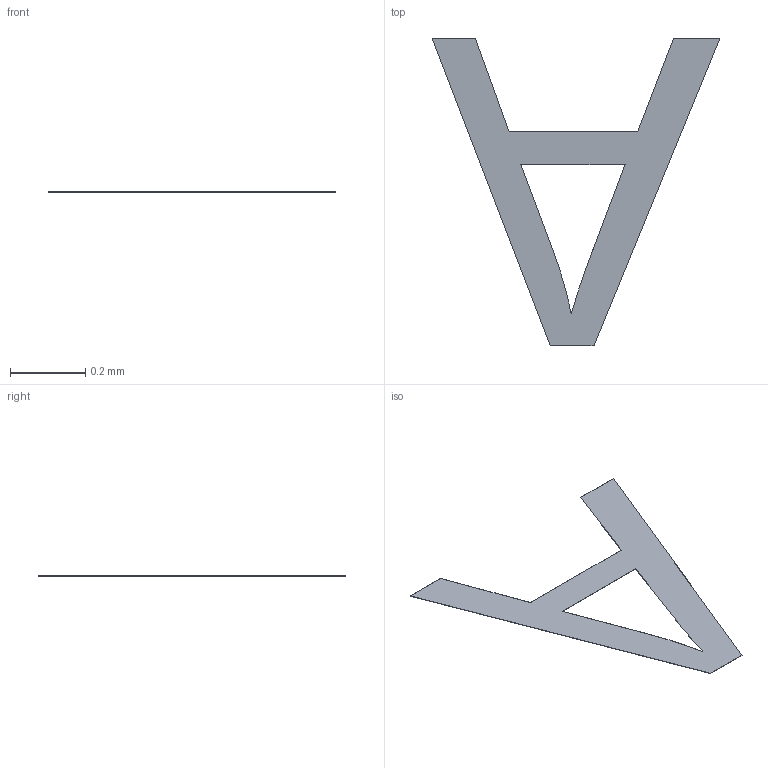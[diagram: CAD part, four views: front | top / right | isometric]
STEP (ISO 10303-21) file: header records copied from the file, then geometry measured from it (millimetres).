
FILE_DESCRIPTION(/* description */ ('STEP AP242 Edition 2','CAx-IF Rec.Pracs.---Representation and Presentation of Product Manufacturing Information (PMI)---4.0---2014-10-13','CAx-IF Rec.Pracs.---3D Tessellated Geometry---0.4---2014-09-14','2;1','CAx-IF Rec.Pracs.---User Defined Attributes---1.5---2016-08-15'),/* implementation_level */ '2;1');
FILE_NAME(/* name */ 'Drone Layout - Surface 358',/* time_stamp */ '2026-10-04T22:22:57Z',/* author */ (''),/* organization */ (''),/* preprocessor_version */ 'ST-DEVELOPER v20',/* originating_system */ 'ONSHAPE BY PTC INC, 1.221',/* authorisation */ ' ');
FILE_SCHEMA (('AP242_MANAGED_MODEL_BASED_3D_ENGINEERING_MIM_LF { 1 0 10303 442 3 1 4 }'));
Length unit declared in the file: metre
Products named in the file (1): VL53L0X:1__Body16
Bounding box: 0.76 x 0.82 x 0 mm (x, y, z)
Volume: 0 mm3; surface area: 0.4 mm2
Topology: 1 solids, 1 shells, 15 faces, 39 edges, 26 vertices
Faces by surface type: plane 13, cylinder 2
Entity records: 476 total; most frequent: CARTESIAN_POINT 87, ORIENTED_EDGE 78, DIRECTION 73, EDGE_CURVE 39, LINE 33, VECTOR 33, VERTEX_POINT 26, AXIS2_PLACEMENT_3D 20
